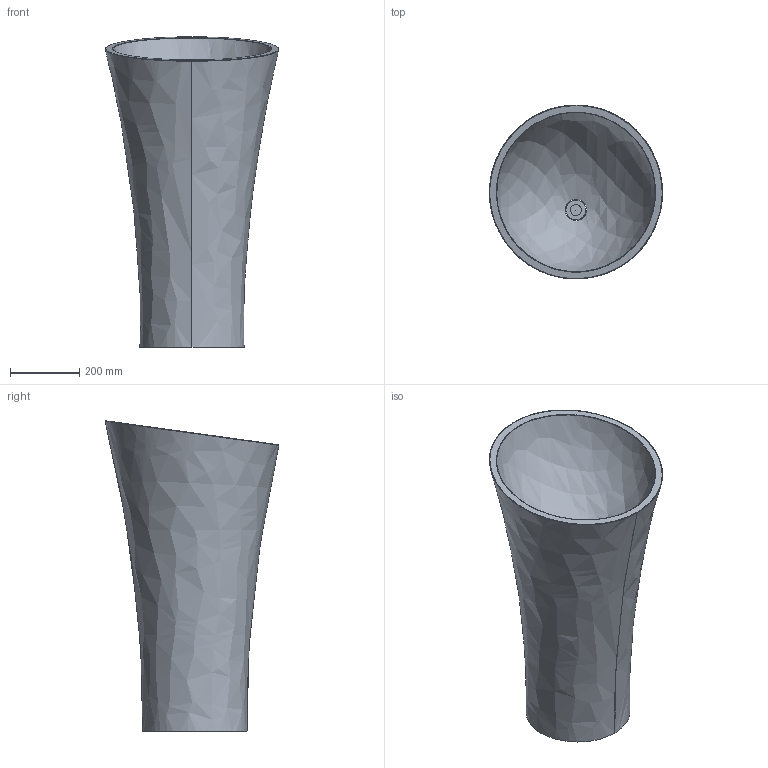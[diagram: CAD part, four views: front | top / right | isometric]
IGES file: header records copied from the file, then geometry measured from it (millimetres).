
Start section:  Autodesk Design for Windows version 2010 IGES version 5.3
Global section: file name: D:\Desktop\GIOVANNI\SCHEDE PRODOTTO\LAVABI\FREESTANDING\EVOQUE TOWER\3D\EVOQUE TOWER.igs; native system: Rhinoceros ( Jan 17 2018 ); preprocessor: Trout Lake IGES 012 Jan 17 2018; date: 230530.121533; units: millimetre
Bounding box: 501.67 x 502.99 x 898.91 mm (x, y, z)
Surface area: 1332371.7 mm2 (no closed solid volume)
Topology: 0 solids, 0 shells, 36 faces, 372 edges, 368 vertices
Faces by surface type: bspline 36
